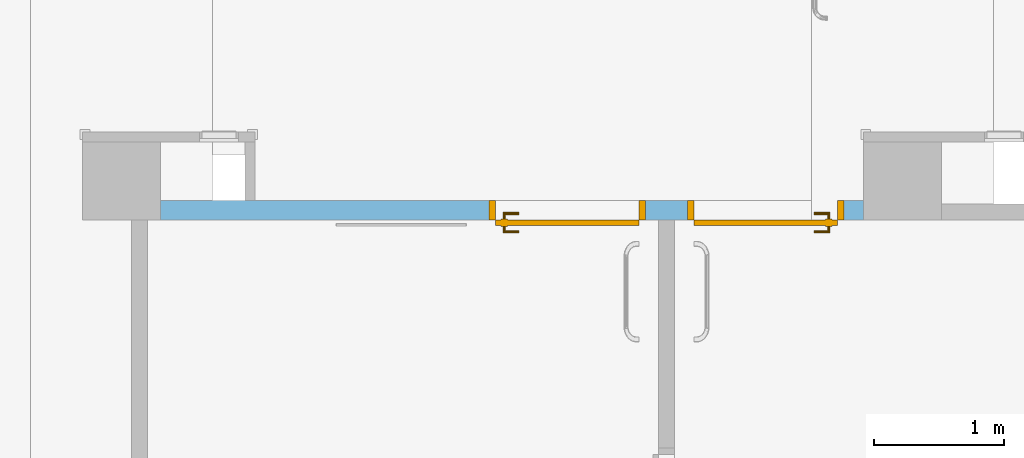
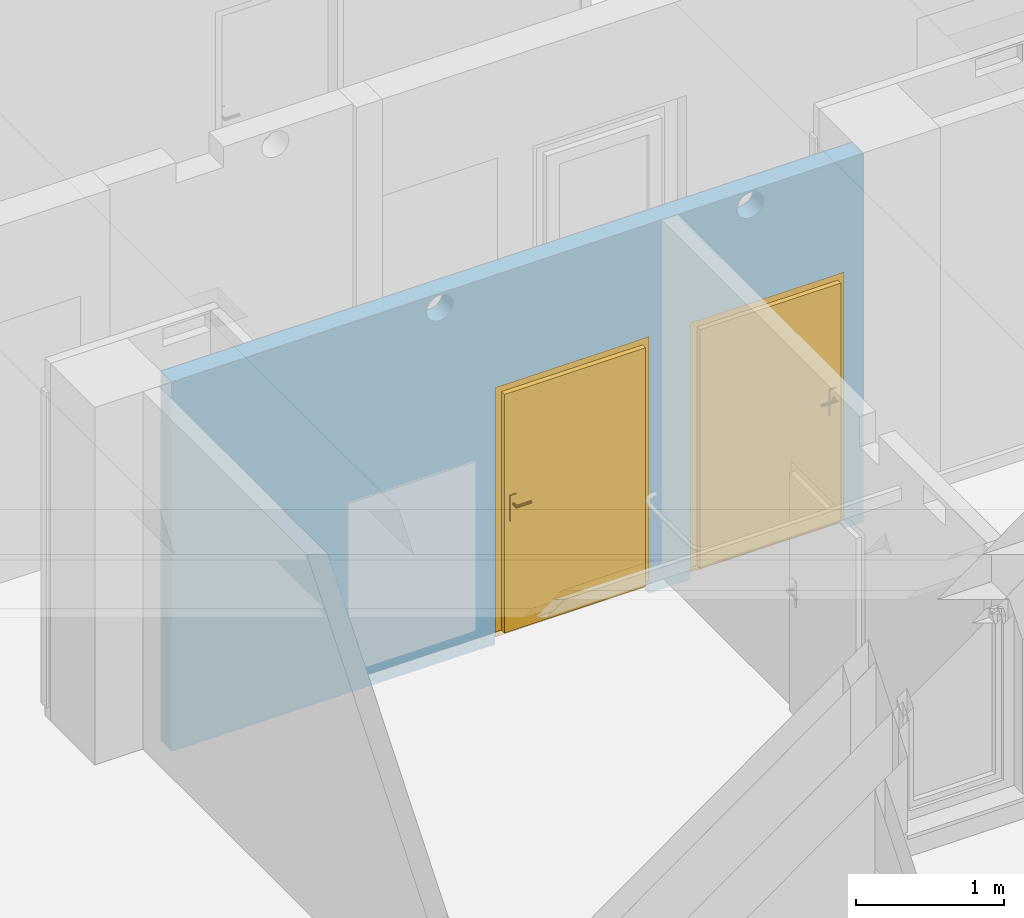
# One storey, part 52 of 84: 2 doors, 4 openings, plus 1 element that does not belong to this part.
"""IFC4 building model written with IfcOpenShell, lengths in metres."""

from ifc_helpers import new_model, entity, si_unit, converted_unit, derived_unit, frame, frame_2d, origin, origin_with_axes, place, context, subcontext, project, spatial, polyline, rectangle, outline, extrude, closed_shell, open_shell, surface_model, source, transform, mapped, material, layer, layer_set, layer_usage, type_object, element, fill, save


model = new_model("IFC4")

# Units and contexts
model_context = context("Model", 3, precision=1e-05, world=origin())
body_context = subcontext(model_context, "Body", "Model", "MODEL_VIEW")
ifc_project = project(units=[si_unit("LENGTHUNIT", "METRE"), si_unit("AREAUNIT", "SQUARE_METRE"), si_unit("VOLUMEUNIT", "CUBIC_METRE"), si_unit("MASSUNIT", "GRAM", prefix="KILO"), converted_unit("PLANEANGLEUNIT", "DEGREE", entity("IfcPlaneAngleMeasure", 0.0174532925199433), si_unit("PLANEANGLEUNIT", "RADIAN"), dimensions=[0, 0, 0, 0, 0, 0, 0]), derived_unit("THERMALTRANSMITTANCEUNIT", [(si_unit("POWERUNIT", "WATT"), 1), (si_unit("THERMODYNAMICTEMPERATUREUNIT", "KELVIN"), -1), (si_unit("LENGTHUNIT", "METRE"), -2)]), derived_unit("VOLUMETRICFLOWRATEUNIT", [(si_unit("LENGTHUNIT", "METRE"), 3), (converted_unit("TIMEUNIT", "hour", entity("IfcTimeMeasure", 3600.0), si_unit("TIMEUNIT", "SECOND"), dimensions=[0, 0, 1, 0, 0, 0, 0]), -1), (si_unit("LENGTHUNIT", "METRE"), -1)])], contexts=[model_context])

# Site, building, storey
site_placement = place(None, origin())
site = spatial("IfcSite", under=ifc_project, at=site_placement, Name="3. ASŘ", CompositionType="ELEMENT")
building_placement = place(site_placement, origin())
building = spatial("IfcBuilding", under=site, at=building_placement, Name="Pavilon C", CompositionType="ELEMENT")
storey_placement = place(building_placement, frame((0.0, 0.0, -3.3)))
storey = spatial("IfcBuildingStorey", under=building, at=storey_placement, Name="Půdorys 1.PP", CompositionType="ELEMENT", Elevation=-3.3)

# Wall, openings, doors
ifc_material = material(Name="SDK - 1 KCE + DVOJITÉ OPLÁŠTĚNÍ")
ifc_layer = layer(ifc_material, 0.15)
ifc_layer_set = layer_set([ifc_layer])
ifc_layer_usage = layer_usage(ifc_layer_set, "AXIS2", "POSITIVE", 0.0)
wall_placement = place(storey_placement, frame((6.30000000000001, 5.1, -0.1)))
wall = element("IfcWall", 1, at=wall_placement, inside=storey, material=ifc_layer_usage, Name="SDK - 1 KCE + DVOJITÉ OPLÁŠTĚNÍ", context=body_context, shape_type="SweptSolid", body=[
    extrude(rectangle(XDim=5.4, YDim=0.15, at=frame_2d((2.7, 0.075), x_axis=(1.0, 0.0))), origin_with_axes(), (0.0, 0.0, 1.0), 3.05),
])
opening_1_placement = place(wall_placement, frame((4.05, 0.0, 0.0), z_axis=(0.0, 1.0, 0.0), x_axis=(0.0, 0.0, 1.0)))
opening_1 = element("IfcOpeningElement", 2, at=opening_1_placement, cuts=wall, Name="Dveřní otvor", ObjectType="Opening", context=body_context, shape_type="SweptSolid", body=[
    extrude(outline(polyline([(0.0, 1.2), (2.12, 1.2), (2.12, 0.0), (0.0, 0.0), (0.0, 1.2)])), origin_with_axes(), (0.0, 0.0, 1.0), 0.15),
])
opening_2_placement = place(wall_placement, frame((2.525, 0.0, 0.0), z_axis=(0.0, 1.0, 0.0), x_axis=(0.0, 0.0, 1.0)))
opening_2 = element("IfcOpeningElement", 3, at=opening_2_placement, cuts=wall, Name="Dveřní otvor", ObjectType="Opening", context=body_context, shape_type="SweptSolid", body=[
    extrude(outline(polyline([(0.0, 1.2), (2.12, 1.2), (2.12, 0.0), (0.0, 0.0), (0.0, 1.2)])), origin_with_axes(), (0.0, 0.0, 1.0), 0.15),
])
opening_3_placement = place(wall_placement, frame((1.98908287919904, 0.0, 2.825), z_axis=(0.0, 1.0, 0.0), x_axis=(0.0, 0.0, 1.0)))
element("IfcOpeningElement", 4, at=opening_3_placement, cuts=wall, Name="VZT", ObjectType="Opening", context=body_context, shape_type="SweptSolid", body=[
    extrude(outline(polyline([(0.104999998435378, 0.0), (0.094024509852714, 0.000575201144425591), (0.0831692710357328, 0.00229450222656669), (0.072553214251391, 0.00513906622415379), (0.0622926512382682, 0.00907772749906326), (0.0524999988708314, 0.0140673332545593), (0.0432825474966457, 0.0200532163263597), (0.0347412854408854, 0.0269697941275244), (0.0269697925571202, 0.0347412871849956), (0.0200532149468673, 0.0432825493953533), (0.0140673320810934, 0.0525000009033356), (0.00907772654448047, 0.0622926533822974), (0.00513906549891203, 0.0725532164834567), (0.00229450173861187, 0.0831692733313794), (0.000575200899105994, 0.0940245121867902), (0.0, 0.105000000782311), (0.000575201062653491, 0.115975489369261), (0.00229450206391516, 0.126830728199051), (0.00513906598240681, 0.137446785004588), (0.0090777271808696, 0.147707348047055), (0.0140673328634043, 0.157500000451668), (0.0200532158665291, 0.166717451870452), (0.0269697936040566, 0.175258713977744), (0.034741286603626, 0.183030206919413), (0.0432825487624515, 0.189946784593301), (0.0525000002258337, 0.195932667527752), (0.0622926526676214, 0.200922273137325), (0.0725532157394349, 0.204860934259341), (0.083169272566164, 0.207705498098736), (0.0940245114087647, 0.209424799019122), (0.105, 0.21), (0.115975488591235, 0.209424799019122), (0.126830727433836, 0.207705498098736), (0.137446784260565, 0.204860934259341), (0.147707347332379, 0.200922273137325), (0.157499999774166, 0.195932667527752), (0.166717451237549, 0.189946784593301), (0.175258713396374, 0.183030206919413), (0.183030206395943, 0.175258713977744), (0.189946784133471, 0.166717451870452), (0.195932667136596, 0.157500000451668), (0.20092227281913, 0.147707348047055), (0.204860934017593, 0.137446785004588), (0.207705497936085, 0.126830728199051), (0.209424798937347, 0.115975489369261), (0.21, 0.105000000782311), (0.209424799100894, 0.0940245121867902), (0.207705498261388, 0.0831692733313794), (0.204860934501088, 0.0725532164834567), (0.200922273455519, 0.0622926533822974), (0.195932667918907, 0.0525000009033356), (0.189946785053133, 0.0432825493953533), (0.18303020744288, 0.0347412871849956), (0.175258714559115, 0.0269697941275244), (0.166717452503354, 0.0200532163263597), (0.157500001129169, 0.0140673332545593), (0.147707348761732, 0.00907772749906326), (0.137446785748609, 0.00513906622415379), (0.126830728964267, 0.00229450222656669), (0.115975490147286, 0.000575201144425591), (0.104999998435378, 0.0)])), origin_with_axes(), (0.0, 0.0, 1.0), 0.15),
])
opening_4_placement = place(wall_placement, frame((4.41400000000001, 0.0, 2.825), z_axis=(0.0, 1.0, 0.0), x_axis=(0.0, 0.0, 1.0)))
element("IfcOpeningElement", 5, at=opening_4_placement, cuts=wall, Name="VZT", ObjectType="Opening", context=body_context, shape_type="SweptSolid", body=[
    extrude(outline(polyline([(0.104999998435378, 0.0), (0.094024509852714, 0.000575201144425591), (0.0831692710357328, 0.00229450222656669), (0.072553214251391, 0.00513906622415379), (0.0622926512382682, 0.00907772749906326), (0.0524999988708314, 0.0140673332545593), (0.0432825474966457, 0.0200532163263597), (0.0347412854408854, 0.0269697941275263), (0.0269697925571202, 0.0347412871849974), (0.0200532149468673, 0.0432825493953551), (0.0140673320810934, 0.0525000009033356), (0.00907772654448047, 0.0622926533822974), (0.00513906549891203, 0.0725532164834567), (0.00229450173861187, 0.0831692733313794), (0.000575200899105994, 0.0940245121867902), (0.0, 0.105000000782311), (0.000575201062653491, 0.115975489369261), (0.00229450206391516, 0.126830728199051), (0.00513906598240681, 0.137446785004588), (0.0090777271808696, 0.147707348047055), (0.0140673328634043, 0.157500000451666), (0.0200532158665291, 0.166717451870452), (0.0269697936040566, 0.175258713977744), (0.034741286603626, 0.183030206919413), (0.0432825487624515, 0.189946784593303), (0.0525000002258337, 0.195932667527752), (0.0622926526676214, 0.200922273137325), (0.0725532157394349, 0.204860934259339), (0.083169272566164, 0.207705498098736), (0.0940245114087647, 0.20942479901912), (0.105, 0.21), (0.115975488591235, 0.20942479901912), (0.126830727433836, 0.207705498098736), (0.137446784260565, 0.204860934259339), (0.147707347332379, 0.200922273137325), (0.157499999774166, 0.195932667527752), (0.166717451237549, 0.189946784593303), (0.175258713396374, 0.183030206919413), (0.183030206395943, 0.175258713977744), (0.189946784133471, 0.166717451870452), (0.195932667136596, 0.157500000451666), (0.20092227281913, 0.147707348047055), (0.204860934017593, 0.137446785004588), (0.207705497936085, 0.126830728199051), (0.209424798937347, 0.115975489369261), (0.21, 0.105000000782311), (0.209424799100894, 0.0940245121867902), (0.207705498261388, 0.0831692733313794), (0.204860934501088, 0.0725532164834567), (0.200922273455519, 0.0622926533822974), (0.195932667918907, 0.0525000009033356), (0.189946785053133, 0.0432825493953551), (0.18303020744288, 0.0347412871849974), (0.175258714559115, 0.0269697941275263), (0.166717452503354, 0.0200532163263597), (0.157500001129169, 0.0140673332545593), (0.147707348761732, 0.00907772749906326), (0.137446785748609, 0.00513906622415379), (0.126830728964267, 0.00229450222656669), (0.115975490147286, 0.000575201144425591), (0.104999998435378, 0.0)])), origin_with_axes(), (0.0, 0.0, 1.0), 0.15),
])
door_type_1 = type_object("IfcDoorType", Name="I.D025", OperationType="NOTDEFINED", ParameterTakesPrecedence=False, PredefinedType="DOOR")
shared_shape_1 = source(origin_with_axes(), body_context, "Body", "SurfaceModel", [
    surface_model("IfcShellBasedSurfaceModel", [(0.0, 0.075, 0.0), (1.2, 0.075, 0.0), (1.2, 0.075, 0.1), (0.0, 0.075, 0.1)], [open_shell([[[0, 1, 2, 3]]], orient=[[False]])]),
    surface_model("IfcShellBasedSurfaceModel", [(0.0, 0.15, 2.12), (0.0, 0.15, 0.101), (0.05, 0.15, 0.101), (0.05, 0.15, 2.12), (0.0, 0.0, 0.101), (0.0, 2.55795384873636e-16, 2.12), (0.05, 2.55795384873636e-16, 2.12), (0.05, 0.0, 0.101)], [closed_shell([[[0, 1, 2, 3]], [[4, 5, 6, 7]], [[1, 0, 5, 4]], [[2, 1, 4, 7]], [[3, 2, 7, 6]], [[0, 3, 6, 5]]], orient=[[False], [False], [False], [False], [False], [False]])]),
    surface_model("IfcShellBasedSurfaceModel", [(1.15, 0.15, 2.12), (1.15, 0.15, 0.101), (1.2, 0.15, 0.101), (1.2, 0.15, 2.12), (1.15, 0.0, 0.101), (1.15, 2.55795384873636e-16, 2.12), (1.2, 2.55795384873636e-16, 2.12), (1.2, 0.0, 0.101)], [closed_shell([[[0, 1, 2, 3]], [[4, 5, 6, 7]], [[1, 0, 5, 4]], [[2, 1, 4, 7]], [[3, 2, 7, 6]], [[0, 3, 6, 5]]], orient=[[False], [False], [False], [False], [False], [False]])]),
    surface_model("IfcShellBasedSurfaceModel", [(0.05, 0.15, 2.12), (0.05, 0.15, 2.07), (1.15, 0.15, 2.07), (1.15, 0.15, 2.12), (0.05, 2.27373675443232e-16, 2.07), (0.05, 2.27373675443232e-16, 2.12), (1.15, 2.27373675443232e-16, 2.12), (1.15, 2.27373675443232e-16, 2.07)], [closed_shell([[[0, 1, 2, 3]], [[4, 5, 6, 7]], [[1, 0, 5, 4]], [[2, 1, 4, 7]], [[3, 2, 7, 6]], [[0, 3, 6, 5]]], orient=[[False], [False], [False], [False], [False], [False]])]),
    surface_model("IfcShellBasedSurfaceModel", [(0.05, 0.19, 2.07), (0.05, 0.19, 0.101), (1.15, 0.19, 0.101), (1.15, 0.19, 2.07), (0.05, 0.15, 0.101), (0.05, 0.15, 2.07), (1.15, 0.15, 2.07), (1.15, 0.15, 0.101)], [closed_shell([[[0, 1, 2, 3]], [[4, 5, 6, 7]], [[1, 0, 5, 4]], [[2, 1, 4, 7]], [[3, 2, 7, 6]], [[0, 3, 6, 5]]], orient=[[False], [False], [False], [False], [False], [False]])]),
    surface_model("IfcShellBasedSurfaceModel", [(1.06, 0.15, 1.226), (1.06, 0.15, 1.011), (1.11, 0.15, 1.011), (1.11, 0.15, 1.226), (1.06, 0.14, 1.011), (1.06, 0.14, 1.226), (1.11, 0.14, 1.226), (1.11, 0.14, 1.011)], [closed_shell([[[0, 1, 2, 3]], [[4, 5, 6, 7]], [[1, 0, 5, 4]], [[2, 1, 4, 7]], [[3, 2, 7, 6]], [[0, 3, 6, 5]]], orient=[[False], [False], [False], [False], [False], [False]])]),
    surface_model("IfcShellBasedSurfaceModel", [(1.085, 0.14, 1.161), (1.08, 0.14, 1.15966025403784), (1.07633974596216, 0.14, 1.156), (1.075, 0.14, 1.151), (1.07633974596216, 0.14, 1.146), (1.08, 0.14, 1.14233974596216), (1.085, 0.14, 1.141), (1.09, 0.14, 1.14233974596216), (1.09366025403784, 0.14, 1.146), (1.095, 0.14, 1.151), (1.09366025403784, 0.14, 1.156), (1.09, 0.14, 1.15966025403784), (1.09, 0.0950000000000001, 1.15966025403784), (1.085, 0.1, 1.161), (1.09366025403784, 0.0913397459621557, 1.156), (1.095, 0.0900000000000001, 1.151), (1.09366025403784, 0.0913397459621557, 1.146), (1.09, 0.0950000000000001, 1.14233974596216), (1.085, 0.1, 1.141), (1.08, 0.105, 1.14233974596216), (1.07633974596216, 0.108660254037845, 1.146), (1.075, 0.11, 1.151), (1.07633974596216, 0.108660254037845, 1.156), (1.08, 0.105, 1.15966025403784), (0.97, 0.0950000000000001, 1.15966025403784), (0.97, 0.1, 1.161), (0.97, 0.0913397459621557, 1.156), (0.97, 0.0900000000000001, 1.151), (0.97, 0.0913397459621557, 1.146), (0.97, 0.0950000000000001, 1.14233974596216), (0.97, 0.1, 1.141), (0.97, 0.105, 1.14233974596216), (0.97, 0.108660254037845, 1.146), (0.97, 0.11, 1.151), (0.97, 0.108660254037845, 1.156), (0.97, 0.105, 1.15966025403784)], [open_shell([[[0, 1, 2, 3, 4, 5, 6, 7, 8, 9, 10, 11]], [[0, 11, 12, 13]], [[11, 10, 14, 12]], [[10, 9, 15, 14]], [[9, 8, 16, 15]], [[8, 7, 17, 16]], [[7, 6, 18, 17]], [[6, 5, 19, 18]], [[5, 4, 20, 19]], [[4, 3, 21, 20]], [[3, 2, 22, 21]], [[2, 1, 23, 22]], [[1, 0, 13, 23]], [[13, 12, 24, 25]], [[12, 14, 26, 24]], [[14, 15, 27, 26]], [[15, 16, 28, 27]], [[16, 17, 29, 28]], [[17, 18, 30, 29]], [[18, 19, 31, 30]], [[19, 20, 32, 31]], [[20, 21, 33, 32]], [[21, 22, 34, 33]], [[22, 23, 35, 34]], [[23, 13, 25, 35]]], orient=[[False], [False], [False], [False], [False], [False], [False], [False], [False], [False], [False], [False], [False], [False], [False], [False], [False], [False], [False], [False], [False], [False], [False], [False], [False]])]),
    surface_model("IfcShellBasedSurfaceModel", [(1.06, 0.19, 1.226), (1.11, 0.19, 1.226), (1.11, 0.19, 1.011), (1.06, 0.19, 1.011), (1.06, 0.2, 1.011), (1.11, 0.2, 1.011), (1.11, 0.2, 1.226), (1.06, 0.2, 1.226)], [closed_shell([[[0, 1, 2, 3]], [[4, 5, 6, 7]], [[3, 4, 7, 0]], [[2, 5, 4, 3]], [[1, 6, 5, 2]], [[0, 7, 6, 1]]], orient=[[False], [False], [False], [False], [False], [False]])]),
    surface_model("IfcShellBasedSurfaceModel", [(1.085, 0.2, 1.161), (1.09, 0.2, 1.15966025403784), (1.09366025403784, 0.2, 1.156), (1.095, 0.2, 1.151), (1.09366025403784, 0.2, 1.146), (1.09, 0.2, 1.14233974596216), (1.085, 0.2, 1.141), (1.08, 0.2, 1.14233974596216), (1.07633974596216, 0.2, 1.146), (1.075, 0.2, 1.151), (1.07633974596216, 0.2, 1.156), (1.08, 0.2, 1.15966025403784), (1.085, 0.24, 1.161), (1.09, 0.245, 1.15966025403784), (1.09366025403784, 0.248660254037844, 1.156), (1.095, 0.25, 1.151), (1.09366025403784, 0.248660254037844, 1.146), (1.09, 0.245, 1.14233974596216), (1.085, 0.24, 1.141), (1.08, 0.235, 1.14233974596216), (1.07633974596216, 0.231339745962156, 1.146), (1.075, 0.23, 1.151), (1.07633974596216, 0.231339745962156, 1.156), (1.08, 0.235, 1.15966025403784), (0.97, 0.24, 1.161), (0.97, 0.245, 1.15966025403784), (0.97, 0.248660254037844, 1.156), (0.97, 0.25, 1.151), (0.97, 0.248660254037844, 1.146), (0.97, 0.245, 1.14233974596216), (0.97, 0.24, 1.141), (0.97, 0.235, 1.14233974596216), (0.97, 0.231339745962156, 1.146), (0.97, 0.23, 1.151), (0.97, 0.231339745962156, 1.156), (0.97, 0.235, 1.15966025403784)], [open_shell([[[0, 1, 2, 3, 4, 5, 6, 7, 8, 9, 10, 11]], [[0, 12, 13, 1]], [[1, 13, 14, 2]], [[2, 14, 15, 3]], [[3, 15, 16, 4]], [[4, 16, 17, 5]], [[5, 17, 18, 6]], [[6, 18, 19, 7]], [[7, 19, 20, 8]], [[8, 20, 21, 9]], [[9, 21, 22, 10]], [[10, 22, 23, 11]], [[11, 23, 12, 0]], [[12, 24, 25, 13]], [[13, 25, 26, 14]], [[14, 26, 27, 15]], [[15, 27, 28, 16]], [[16, 28, 29, 17]], [[17, 29, 30, 18]], [[18, 30, 31, 19]], [[19, 31, 32, 20]], [[20, 32, 33, 21]], [[21, 33, 34, 22]], [[22, 34, 35, 23]], [[23, 35, 24, 12]]], orient=[[False], [False], [False], [False], [False], [False], [False], [False], [False], [False], [False], [False], [False], [False], [False], [False], [False], [False], [False], [False], [False], [False], [False], [False], [False]])]),
])
door_1_placement = place(opening_1_placement, frame((0.0, 0.0, 0.15), z_axis=(1.0, 0.0, 0.0), x_axis=(0.0, 1.0, -1.22464679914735e-16)))
door_1 = element("IfcDoor", 6, at=door_1_placement, inside=storey, type_object=door_type_1, Name="I.D025", OverallHeight=2.12, OverallWidth=1.2, context=body_context, shape_type="MappedRepresentation", body=[
    mapped(shared_shape_1, transform((0.0, 0.0, 0.0), x_axis=(1.0, 0.0, 0.0), y_axis=(0.0, -1.0, 0.0), z_axis=(0.0, 0.0, 1.0), scale=1.0)),
])
fill(opening_1, door_1)
door_type_2 = type_object("IfcDoorType", Name="I.D027", OperationType="NOTDEFINED", ParameterTakesPrecedence=False, PredefinedType="DOOR")
shared_shape_2 = source(origin_with_axes(), body_context, "Body", "SurfaceModel", [
    surface_model("IfcShellBasedSurfaceModel", [(0.0, 0.075, 0.0), (1.2, 0.075, 0.0), (1.2, 0.075, 0.1), (0.0, 0.075, 0.1)], [open_shell([[[0, 1, 2, 3]]], orient=[[False]])]),
    surface_model("IfcShellBasedSurfaceModel", [(0.0, 0.15, 2.12), (0.0, 0.15, 0.101), (0.05, 0.15, 0.101), (0.05, 0.15, 2.12), (0.0, 0.0, 0.101), (0.0, 2.55795384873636e-16, 2.12), (0.05, 2.55795384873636e-16, 2.12), (0.05, 0.0, 0.101)], [closed_shell([[[0, 1, 2, 3]], [[4, 5, 6, 7]], [[1, 0, 5, 4]], [[2, 1, 4, 7]], [[3, 2, 7, 6]], [[0, 3, 6, 5]]], orient=[[False], [False], [False], [False], [False], [False]])]),
    surface_model("IfcShellBasedSurfaceModel", [(1.15, 0.15, 2.12), (1.15, 0.15, 0.101), (1.2, 0.15, 0.101), (1.2, 0.15, 2.12), (1.15, 0.0, 0.101), (1.15, 2.55795384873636e-16, 2.12), (1.2, 2.55795384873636e-16, 2.12), (1.2, 0.0, 0.101)], [closed_shell([[[0, 1, 2, 3]], [[4, 5, 6, 7]], [[1, 0, 5, 4]], [[2, 1, 4, 7]], [[3, 2, 7, 6]], [[0, 3, 6, 5]]], orient=[[False], [False], [False], [False], [False], [False]])]),
    surface_model("IfcShellBasedSurfaceModel", [(0.05, 0.15, 2.12), (0.05, 0.15, 2.07), (1.15, 0.15, 2.07), (1.15, 0.15, 2.12), (0.05, 2.27373675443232e-16, 2.07), (0.05, 2.27373675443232e-16, 2.12), (1.15, 2.27373675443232e-16, 2.12), (1.15, 2.27373675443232e-16, 2.07)], [closed_shell([[[0, 1, 2, 3]], [[4, 5, 6, 7]], [[1, 0, 5, 4]], [[2, 1, 4, 7]], [[3, 2, 7, 6]], [[0, 3, 6, 5]]], orient=[[False], [False], [False], [False], [False], [False]])]),
    surface_model("IfcShellBasedSurfaceModel", [(0.05, 0.19, 2.07), (0.05, 0.19, 0.101), (1.15, 0.19, 0.101), (1.15, 0.19, 2.07), (0.05, 0.15, 0.101), (0.05, 0.15, 2.07), (1.15, 0.15, 2.07), (1.15, 0.15, 0.101)], [closed_shell([[[0, 1, 2, 3]], [[4, 5, 6, 7]], [[1, 0, 5, 4]], [[2, 1, 4, 7]], [[3, 2, 7, 6]], [[0, 3, 6, 5]]], orient=[[False], [False], [False], [False], [False], [False]])]),
    surface_model("IfcShellBasedSurfaceModel", [(1.06, 0.15, 1.226), (1.06, 0.15, 1.011), (1.11, 0.15, 1.011), (1.11, 0.15, 1.226), (1.06, 0.14, 1.011), (1.06, 0.14, 1.226), (1.11, 0.14, 1.226), (1.11, 0.14, 1.011)], [closed_shell([[[0, 1, 2, 3]], [[4, 5, 6, 7]], [[1, 0, 5, 4]], [[2, 1, 4, 7]], [[3, 2, 7, 6]], [[0, 3, 6, 5]]], orient=[[False], [False], [False], [False], [False], [False]])]),
    surface_model("IfcShellBasedSurfaceModel", [(1.085, 0.14, 1.161), (1.08, 0.14, 1.15966025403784), (1.07633974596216, 0.14, 1.156), (1.075, 0.14, 1.151), (1.07633974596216, 0.14, 1.146), (1.08, 0.14, 1.14233974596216), (1.085, 0.14, 1.141), (1.09, 0.14, 1.14233974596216), (1.09366025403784, 0.14, 1.146), (1.095, 0.14, 1.151), (1.09366025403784, 0.14, 1.156), (1.09, 0.14, 1.15966025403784), (1.09, 0.0950000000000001, 1.15966025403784), (1.085, 0.1, 1.161), (1.09366025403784, 0.0913397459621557, 1.156), (1.095, 0.0900000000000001, 1.151), (1.09366025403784, 0.0913397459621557, 1.146), (1.09, 0.0950000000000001, 1.14233974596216), (1.085, 0.1, 1.141), (1.08, 0.105, 1.14233974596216), (1.07633974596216, 0.108660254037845, 1.146), (1.075, 0.11, 1.151), (1.07633974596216, 0.108660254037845, 1.156), (1.08, 0.105, 1.15966025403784), (0.97, 0.0950000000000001, 1.15966025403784), (0.97, 0.1, 1.161), (0.97, 0.0913397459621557, 1.156), (0.97, 0.0900000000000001, 1.151), (0.97, 0.0913397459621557, 1.146), (0.97, 0.0950000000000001, 1.14233974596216), (0.97, 0.1, 1.141), (0.97, 0.105, 1.14233974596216), (0.97, 0.108660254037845, 1.146), (0.97, 0.11, 1.151), (0.97, 0.108660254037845, 1.156), (0.97, 0.105, 1.15966025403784)], [open_shell([[[0, 1, 2, 3, 4, 5, 6, 7, 8, 9, 10, 11]], [[0, 11, 12, 13]], [[11, 10, 14, 12]], [[10, 9, 15, 14]], [[9, 8, 16, 15]], [[8, 7, 17, 16]], [[7, 6, 18, 17]], [[6, 5, 19, 18]], [[5, 4, 20, 19]], [[4, 3, 21, 20]], [[3, 2, 22, 21]], [[2, 1, 23, 22]], [[1, 0, 13, 23]], [[13, 12, 24, 25]], [[12, 14, 26, 24]], [[14, 15, 27, 26]], [[15, 16, 28, 27]], [[16, 17, 29, 28]], [[17, 18, 30, 29]], [[18, 19, 31, 30]], [[19, 20, 32, 31]], [[20, 21, 33, 32]], [[21, 22, 34, 33]], [[22, 23, 35, 34]], [[23, 13, 25, 35]]], orient=[[False], [False], [False], [False], [False], [False], [False], [False], [False], [False], [False], [False], [False], [False], [False], [False], [False], [False], [False], [False], [False], [False], [False], [False], [False]])]),
    surface_model("IfcShellBasedSurfaceModel", [(1.06, 0.19, 1.226), (1.11, 0.19, 1.226), (1.11, 0.19, 1.011), (1.06, 0.19, 1.011), (1.06, 0.2, 1.011), (1.11, 0.2, 1.011), (1.11, 0.2, 1.226), (1.06, 0.2, 1.226)], [closed_shell([[[0, 1, 2, 3]], [[4, 5, 6, 7]], [[3, 4, 7, 0]], [[2, 5, 4, 3]], [[1, 6, 5, 2]], [[0, 7, 6, 1]]], orient=[[False], [False], [False], [False], [False], [False]])]),
    surface_model("IfcShellBasedSurfaceModel", [(1.085, 0.2, 1.161), (1.09, 0.2, 1.15966025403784), (1.09366025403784, 0.2, 1.156), (1.095, 0.2, 1.151), (1.09366025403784, 0.2, 1.146), (1.09, 0.2, 1.14233974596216), (1.085, 0.2, 1.141), (1.08, 0.2, 1.14233974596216), (1.07633974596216, 0.2, 1.146), (1.075, 0.2, 1.151), (1.07633974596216, 0.2, 1.156), (1.08, 0.2, 1.15966025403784), (1.085, 0.24, 1.161), (1.09, 0.245, 1.15966025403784), (1.09366025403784, 0.248660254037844, 1.156), (1.095, 0.25, 1.151), (1.09366025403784, 0.248660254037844, 1.146), (1.09, 0.245, 1.14233974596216), (1.085, 0.24, 1.141), (1.08, 0.235, 1.14233974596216), (1.07633974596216, 0.231339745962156, 1.146), (1.075, 0.23, 1.151), (1.07633974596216, 0.231339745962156, 1.156), (1.08, 0.235, 1.15966025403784), (0.97, 0.24, 1.161), (0.97, 0.245, 1.15966025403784), (0.97, 0.248660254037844, 1.156), (0.97, 0.25, 1.151), (0.97, 0.248660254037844, 1.146), (0.97, 0.245, 1.14233974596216), (0.97, 0.24, 1.141), (0.97, 0.235, 1.14233974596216), (0.97, 0.231339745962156, 1.146), (0.97, 0.23, 1.151), (0.97, 0.231339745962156, 1.156), (0.97, 0.235, 1.15966025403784)], [open_shell([[[0, 1, 2, 3, 4, 5, 6, 7, 8, 9, 10, 11]], [[0, 12, 13, 1]], [[1, 13, 14, 2]], [[2, 14, 15, 3]], [[3, 15, 16, 4]], [[4, 16, 17, 5]], [[5, 17, 18, 6]], [[6, 18, 19, 7]], [[7, 19, 20, 8]], [[8, 20, 21, 9]], [[9, 21, 22, 10]], [[10, 22, 23, 11]], [[11, 23, 12, 0]], [[12, 24, 25, 13]], [[13, 25, 26, 14]], [[14, 26, 27, 15]], [[15, 27, 28, 16]], [[16, 28, 29, 17]], [[17, 29, 30, 18]], [[18, 30, 31, 19]], [[19, 31, 32, 20]], [[20, 32, 33, 21]], [[21, 33, 34, 22]], [[22, 34, 35, 23]], [[23, 35, 24, 12]]], orient=[[False], [False], [False], [False], [False], [False], [False], [False], [False], [False], [False], [False], [False], [False], [False], [False], [False], [False], [False], [False], [False], [False], [False], [False], [False]])]),
])
door_2_placement = place(opening_2_placement, frame((0.0, 1.2, 0.15), z_axis=(1.0, 0.0, 0.0), x_axis=(0.0, -1.0, 1.22464679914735e-16)))
door_2 = element("IfcDoor", 7, at=door_2_placement, inside=storey, type_object=door_type_2, Name="I.D027", OverallHeight=2.12, OverallWidth=1.2, context=body_context, shape_type="MappedRepresentation", body=[
    mapped(shared_shape_2, transform((0.0, 0.0, 0.0), x_axis=(1.0, 0.0, 0.0), y_axis=(0.0, 1.0, 0.0), z_axis=(0.0, 0.0, 1.0), scale=1.0)),
])
fill(opening_2, door_2)

save(model, "model.ifc")
